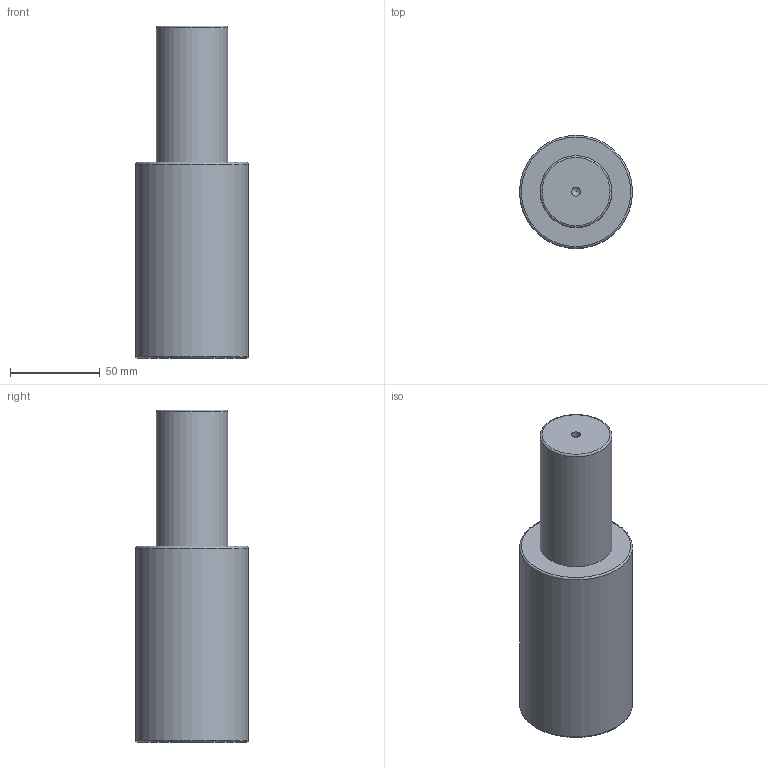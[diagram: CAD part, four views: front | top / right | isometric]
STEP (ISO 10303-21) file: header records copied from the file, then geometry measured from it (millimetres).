
FILE_DESCRIPTION(/* description */ (''),/* implementation_level */ '2;1');
FILE_NAME(/* name */ 'NV5-SMLX.63x75.stp',/* time_stamp */ '2018-08-31T16:08:30+02:00',/* author */ (''),/* organization */ (''),/* preprocessor_version */ 'ST-DEVELOPER v16',/* originating_system */ 'SIEMENS PLM Software NX 10.0',/* authorisation */ '');
FILE_SCHEMA (('AUTOMOTIVE_DESIGN { 1 0 10303 214 3 1 1 1 }'));
Length unit declared in the file: millimetre
Products named in the file (1): NV5-SMLX.63x75
Bounding box: 63 x 63 x 185 mm (x, y, z)
Volume: 433764.1 mm3; surface area: 37852.7 mm2
Topology: 1 solids, 1 shells, 12 faces, 24 edges, 15 vertices
Faces by surface type: cylinder 4, torus 3, plane 3, cone 2
Full cylindrical faces by diameter (mm): 5 x1, 8.5 x1, 40 x1, 63 x1
Entity records: 266 total; most frequent: DIRECTION 48, CARTESIAN_POINT 37, FACE_BOUND 24, AXIS2_PLACEMENT_3D 24, EDGE_LOOP 22, ORIENTED_EDGE 22, VERTEX_POINT 13, ADVANCED_FACE 12
